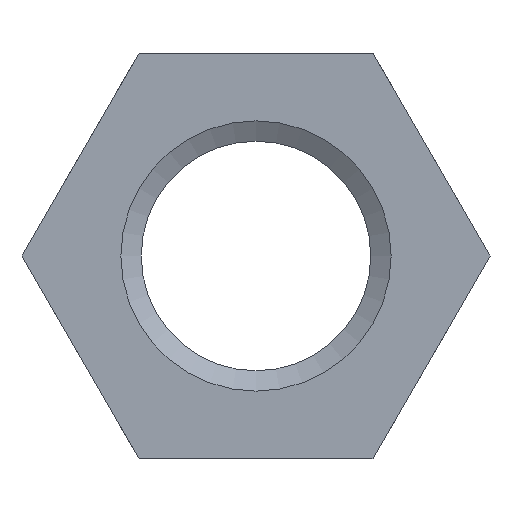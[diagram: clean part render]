
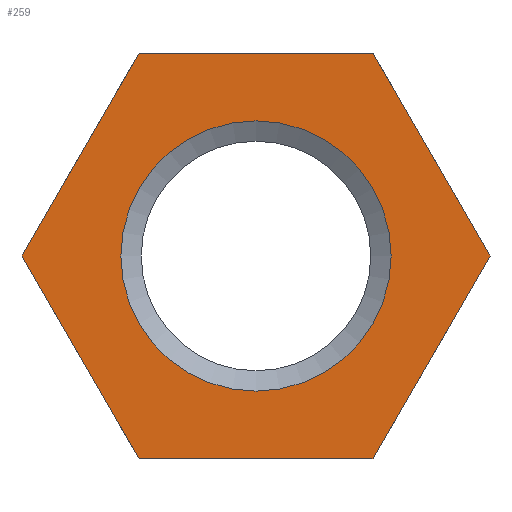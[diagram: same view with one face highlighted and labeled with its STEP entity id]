
A CAD part, front view. The second image highlights one B-rep face of the part: STEP entity #259.
In plain terms, the highlighted planar face has unit normal (0, -1, 0).
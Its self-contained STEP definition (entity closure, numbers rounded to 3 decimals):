
#14=LINE($,#435,#26);
#17=LINE($,#440,#29);
#19=LINE($,#444,#31);
#21=LINE($,#448,#33);
#23=LINE($,#452,#35);
#24=LINE($,#454,#36);
#26=VECTOR($,#334,15.588);
#29=VECTOR($,#339,15.588);
#31=VECTOR($,#343,15.588);
#33=VECTOR($,#347,15.588);
#35=VECTOR($,#351,15.588);
#36=VECTOR($,#354,15.588);
#43=PLANE($,#289);
#61=FACE_BOUND($,#98,.T.);
#62=FACE_BOUND($,#99,.T.);
#98=EDGE_LOOP($,(#222));
#99=EDGE_LOOP($,(#223,#224,#225,#226,#227,#228));
#102=CIRCLE($,#265,9.);
#112=VERTEX_POINT($,#361);
#128=VERTEX_POINT($,#432);
#129=VERTEX_POINT($,#434);
#130=VERTEX_POINT($,#438);
#131=VERTEX_POINT($,#442);
#132=VERTEX_POINT($,#446);
#133=VERTEX_POINT($,#450);
#134=EDGE_CURVE($,#112,#112,#102,.T.);
#157=EDGE_CURVE($,#129,#128,#14,.T.);
#160=EDGE_CURVE($,#128,#130,#17,.T.);
#162=EDGE_CURVE($,#130,#131,#19,.T.);
#164=EDGE_CURVE($,#131,#132,#21,.T.);
#166=EDGE_CURVE($,#132,#133,#23,.T.);
#167=EDGE_CURVE($,#133,#129,#24,.T.);
#222=ORIENTED_EDGE($,*,*,#134,.T.);
#223=ORIENTED_EDGE($,*,*,#162,.T.);
#224=ORIENTED_EDGE($,*,*,#164,.T.);
#225=ORIENTED_EDGE($,*,*,#166,.T.);
#226=ORIENTED_EDGE($,*,*,#167,.T.);
#227=ORIENTED_EDGE($,*,*,#157,.T.);
#228=ORIENTED_EDGE($,*,*,#160,.T.);
#259=ADVANCED_FACE($,(#61,#62),#43,.F.);
#265=AXIS2_PLACEMENT_3D($,#362,#295,#296);
#289=AXIS2_PLACEMENT_3D($,#455,#355,#356);
#295=DIRECTION('center_axis',(0.,1.,0.));
#296=DIRECTION('ref_axis',(-1.,0.,0.));
#334=DIRECTION($,(-1.,0.,0.));
#339=DIRECTION($,(-0.5,0.,-0.866));
#343=DIRECTION($,(0.5,0.,-0.866));
#347=DIRECTION($,(1.,0.,0.));
#351=DIRECTION($,(0.5,0.,0.866));
#354=DIRECTION($,(-0.5,0.,0.866));
#355=DIRECTION('center_axis',(0.,1.,0.));
#356=DIRECTION('ref_axis',(0.,0.,1.));
#361=CARTESIAN_POINT('',(-9.,0.,0.));
#362=CARTESIAN_POINT('Origin',(0.,0.,0.));
#432=CARTESIAN_POINT('',(-7.794,0.,13.5));
#434=CARTESIAN_POINT('',(7.794,0.,13.5));
#435=CARTESIAN_POINT($,(7.794,0.,13.5));
#438=CARTESIAN_POINT('',(-15.588,0.,0.));
#440=CARTESIAN_POINT($,(-7.794,0.,13.5));
#442=CARTESIAN_POINT('',(-7.794,0.,-13.5));
#444=CARTESIAN_POINT($,(-15.588,0.,0.));
#446=CARTESIAN_POINT('',(7.794,0.,-13.5));
#448=CARTESIAN_POINT($,(-7.794,0.,-13.5));
#450=CARTESIAN_POINT('',(15.588,0.,0.));
#452=CARTESIAN_POINT($,(7.794,0.,-13.5));
#454=CARTESIAN_POINT($,(15.588,0.,0.));
#455=CARTESIAN_POINT('Origin',(0.,0.,0.));
